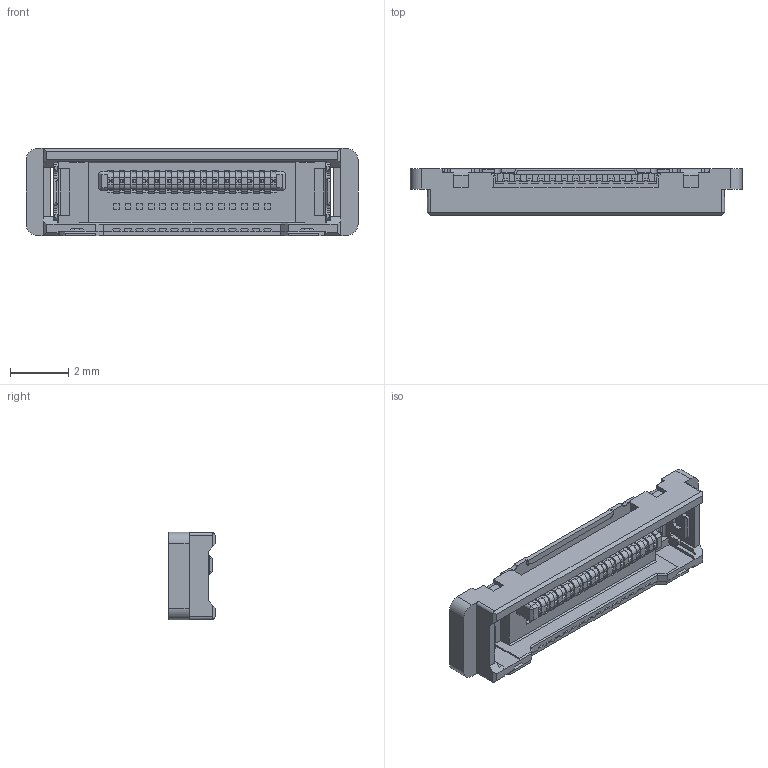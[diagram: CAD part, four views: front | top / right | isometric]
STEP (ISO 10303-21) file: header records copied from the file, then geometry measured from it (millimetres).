
FILE_DESCRIPTION((''),'2;1');
FILE_NAME('50464-014XX-XXX_ASM','2011-12-27T',('alexchen'),(''),'PRO/ENGINEER BY PARAMETRIC TECHNOLOGY CORPORATION, 2007450','PRO/ENGINEER BY PARAMETRIC TECHNOLOGY CORPORATION, 2007450','');
FILE_SCHEMA(('CONFIG_CONTROL_DESIGN', 'GEOMETRIC_VALIDATION_PROPERTIES_MIM'));
Length unit declared in the file: millimetre
Products named in the file (1): 50464-014XX-XXX_ASM
Bounding box: 11.4 x 1.6 x 3 mm (x, y, z)
Volume: 24.9 mm3; surface area: 218.7 mm2
Topology: 1 solids, 1 shells, 1831 faces, 4880 edges, 2986 vertices
Faces by surface type: plane 1477, cylinder 294, bspline 56, cone 4
Entity records: 68983 total; most frequent: CARTESIAN_POINT 10907, ORIENTED_EDGE 9688, DIRECTION 8874, EDGE_CURVE 4844, VECTOR 4176, LINE 4176, VERTEX_POINT 2986, AXIS2_PLACEMENT_3D 2349
